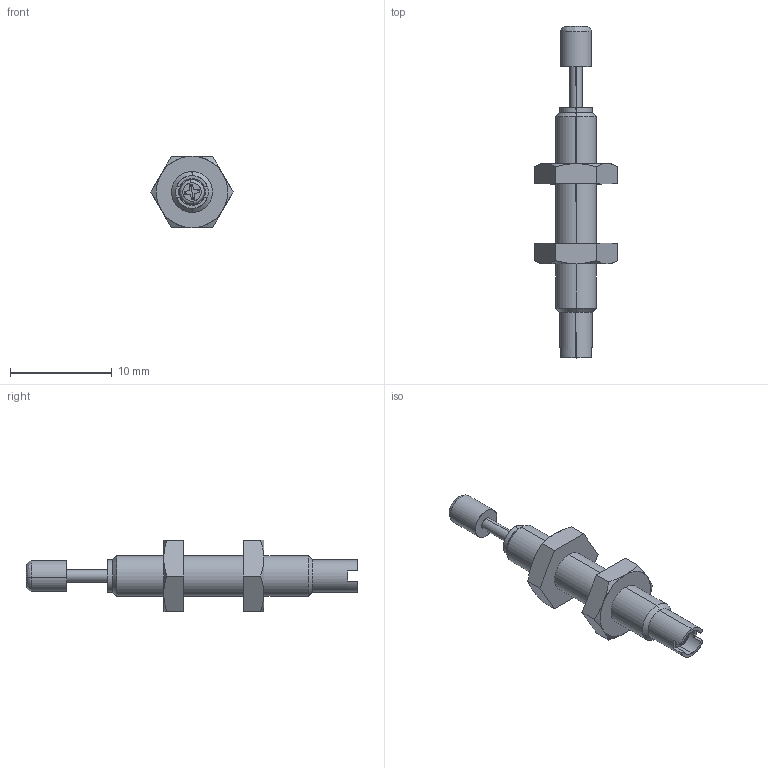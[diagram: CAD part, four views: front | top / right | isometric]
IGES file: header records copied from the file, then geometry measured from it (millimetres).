
Start section: SolidWorks IGES file using analytic representation for surfaces
Bounding box: 8.08 x 32.6 x 7 mm (x, y, z)
Surface area: 656.1 mm2 (no closed solid volume)
Topology: 0 solids, 0 shells, 64 faces, 760 edges, 759 vertices
Faces by surface type: bspline 34, revolution 30
